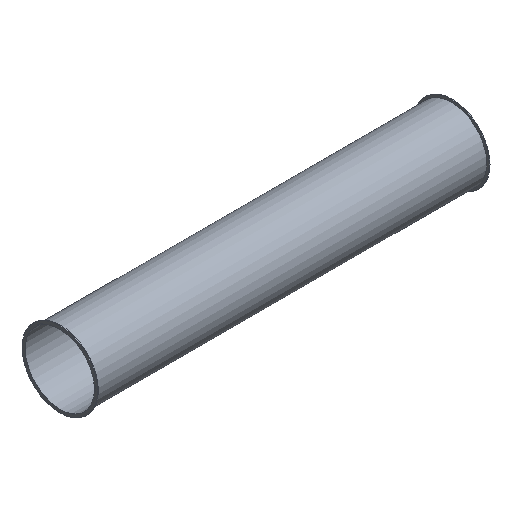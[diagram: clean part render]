
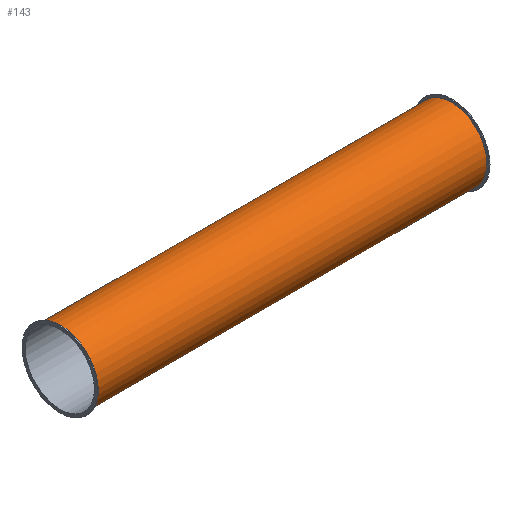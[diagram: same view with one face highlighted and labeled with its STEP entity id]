
A CAD part, isometric view. The second image highlights one B-rep face of the part: STEP entity #143.
In plain terms, the highlighted cylindrical face has radius 89 mm (diameter 178 mm), a full revolution.
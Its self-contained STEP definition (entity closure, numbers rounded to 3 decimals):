
#112=CARTESIAN_POINT('',(952.119,2.817,0.0));
#113=VERTEX_POINT('',#112);
#114=CARTESIAN_POINT('',(952.119,91.817,0.0));
#115=DIRECTION('',(-1.0,0.0,0.0));
#116=DIRECTION('',(0.0,-1.0,0.0));
#117=AXIS2_PLACEMENT_3D('',#114,#115,#116);
#118=CIRCLE('',#117,89.);
#119=EDGE_CURVE('',#113,#113,#118,.T.);
#124=CARTESIAN_POINT('',(461.119,91.817,0.0));
#125=DIRECTION('',(-1.0,0.,0.0));
#126=DIRECTION('',(0.0,-1.0,0.0));
#127=AXIS2_PLACEMENT_3D('',#124,#125,#126);
#128=CYLINDRICAL_SURFACE('',#127,89.);
#129=CARTESIAN_POINT('',(-29.881,2.817,0.0));
#130=VERTEX_POINT('',#129);
#131=CARTESIAN_POINT('',(-29.881,91.817,0.0));
#132=DIRECTION('',(-1.0,0.0,0.0));
#133=DIRECTION('',(0.0,-1.0,0.0));
#134=AXIS2_PLACEMENT_3D('',#131,#132,#133);
#135=CIRCLE('',#134,89.);
#136=EDGE_CURVE('',#130,#130,#135,.T.);
#137=ORIENTED_EDGE('',*,*,#136,.F.);
#138=EDGE_LOOP('',(#137));
#139=FACE_OUTER_BOUND('',#138,.T.);
#140=ORIENTED_EDGE('',*,*,#119,.T.);
#141=EDGE_LOOP('',(#140));
#142=FACE_BOUND('',#141,.T.);
#143=ADVANCED_FACE('',(#139,#142),#128,.T.);
